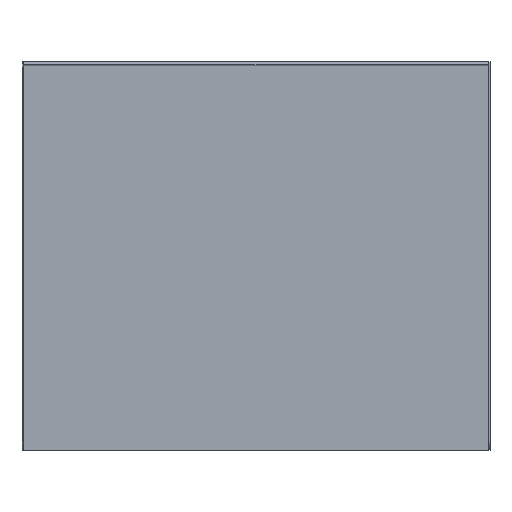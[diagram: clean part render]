
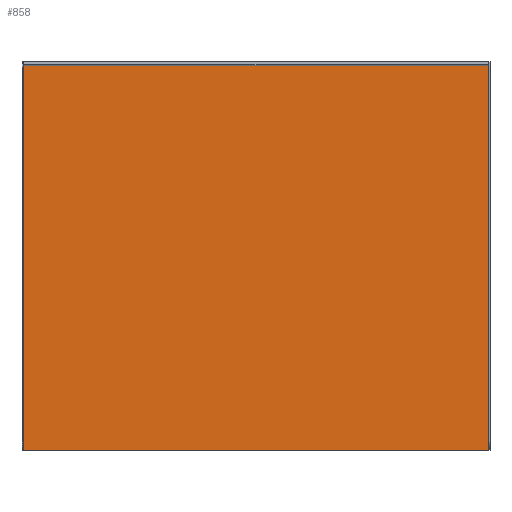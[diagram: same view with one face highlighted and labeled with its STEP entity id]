
A CAD part, front view. The second image highlights one B-rep face of the part: STEP entity #858.
In plain terms, the highlighted planar face has unit normal (0, -1, 0).
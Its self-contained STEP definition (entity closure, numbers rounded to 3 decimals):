
#9 = DIRECTION ( 'NONE',  ( 0., 0., 1. ) ) ;
#42 = VERTEX_POINT ( 'NONE', #943 ) ;
#219 = ORIENTED_EDGE ( 'NONE', *, *, #1310, .F. ) ;
#251 = ORIENTED_EDGE ( 'NONE', *, *, #651, .F. ) ;
#307 = LINE ( 'NONE', #1040, #1767 ) ;
#421 = VECTOR ( 'NONE', #520, 1000. ) ;
#494 = VERTEX_POINT ( 'NONE', #707 ) ;
#520 = DIRECTION ( 'NONE',  ( 1., 0., 0. ) ) ;
#570 = VECTOR ( 'NONE', #904, 1000. ) ;
#599 = ORIENTED_EDGE ( 'NONE', *, *, #1367, .F. ) ;
#651 = EDGE_CURVE ( 'NONE', #42, #494, #1647, .T. ) ;
#667 = DIRECTION ( 'NONE',  ( 0., -1., 0. ) ) ;
#707 = CARTESIAN_POINT ( 'NONE',  ( 597., -15., -497. ) ) ;
#756 = AXIS2_PLACEMENT_3D ( 'NONE', #1530, #667, #1835 ) ;
#775 = CARTESIAN_POINT ( 'NONE',  ( 597., -15., 497. ) ) ;
#822 = CARTESIAN_POINT ( 'NONE',  ( -597., -15., -497. ) ) ;
#832 = LINE ( 'NONE', #822, #1068 ) ;
#858 = ADVANCED_FACE ( 'NONE', ( #1710 ), #962, .T. ) ;
#904 = DIRECTION ( 'NONE',  ( 0., 0., -1. ) ) ;
#943 = CARTESIAN_POINT ( 'NONE',  ( 597., -15., 497. ) ) ;
#962 = PLANE ( 'NONE',  #756 ) ;
#1040 = CARTESIAN_POINT ( 'NONE',  ( -597., -15., 497. ) ) ;
#1068 = VECTOR ( 'NONE', #1840, 1000. ) ;
#1248 = LINE ( 'NONE', #1831, #421 ) ;
#1308 = VERTEX_POINT ( 'NONE', #1505 ) ;
#1310 = EDGE_CURVE ( 'NONE', #494, #1336, #832, .T. ) ;
#1336 = VERTEX_POINT ( 'NONE', #1812 ) ;
#1367 = EDGE_CURVE ( 'NONE', #1308, #42, #1248, .T. ) ;
#1505 = CARTESIAN_POINT ( 'NONE',  ( -597., -15., 497. ) ) ;
#1530 = CARTESIAN_POINT ( 'NONE',  ( 0., -15., 0. ) ) ;
#1536 = EDGE_CURVE ( 'NONE', #1336, #1308, #307, .T. ) ;
#1580 = ORIENTED_EDGE ( 'NONE', *, *, #1536, .F. ) ;
#1647 = LINE ( 'NONE', #775, #570 ) ;
#1710 = FACE_OUTER_BOUND ( 'NONE', #1861, .T. ) ;
#1767 = VECTOR ( 'NONE', #9, 1000. ) ;
#1812 = CARTESIAN_POINT ( 'NONE',  ( -597., -15., -497. ) ) ;
#1831 = CARTESIAN_POINT ( 'NONE',  ( -597., -15., 497. ) ) ;
#1835 = DIRECTION ( 'NONE',  ( 0., 0., -1. ) ) ;
#1840 = DIRECTION ( 'NONE',  ( -1., 0., 0. ) ) ;
#1861 = EDGE_LOOP ( 'NONE', ( #251, #599, #1580, #219 ) ) ;
